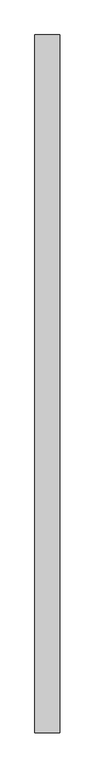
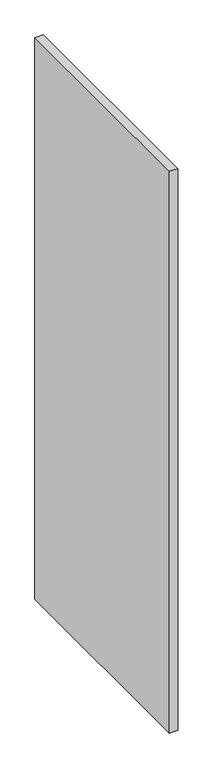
"""IFC4 building model written with IfcOpenShell, lengths in millimetres: proxy geometry, FOUNDATION^OPEN OFFICE 2_42x107 GALLERY WALL-PARTS SOLID."""

from ifc_helpers import new_model, si_unit, frame, origin, place, context, project, spatial, polyline, outline, extrude, source, transform, mapped, element, save


def generic_models_994162ce(model_context):
    return source(origin(), model_context, "Body", "SweptSolid", [
        extrude(outline(polyline([(0.0, 0.0), (0.0, 1066.8), (38.1, 1066.8), (38.1, 0.0), (0.0, 0.0)])), frame((0.0, 0.0, -2717.8), z_axis=(0.0, 0.0, 1.0), x_axis=(1.0, 0.0, 0.0)), (0.0, 0.0, 1.0), 2717.8),
    ])


if __name__ == "__main__":
    model = new_model("IFC4")
    model_context = context("Model", 3, world=origin())
    ifc_project = project(units=[si_unit("LENGTHUNIT", "METRE", prefix="MILLI")], contexts=[model_context])
    site = spatial("IfcSite", under=ifc_project)
    building = spatial("IfcBuilding", under=site)
    placement = place(None, origin())
    generic_models_shape = generic_models_994162ce(model_context)
    element("IfcBuildingElementProxy", 1, Name="FOUNDATION^OPEN OFFICE 2_42x107 GALLERY WALL-PARTS SOLID", ObjectType="FOUNDATION^OPEN OFFICE 2_42x107 GALLERY WALL-PARTS SOLID", at=placement, inside=building, context=model_context, shape_type="MappedRepresentation", body=[
        mapped(generic_models_shape, transform((0.0, 0.0, 0.0), x_axis=(1.0, 0.0, 0.0), y_axis=(0.0, 1.0, 0.0), z_axis=(0.0, 0.0, 1.0))),
    ])
    save(model, "model.ifc")
